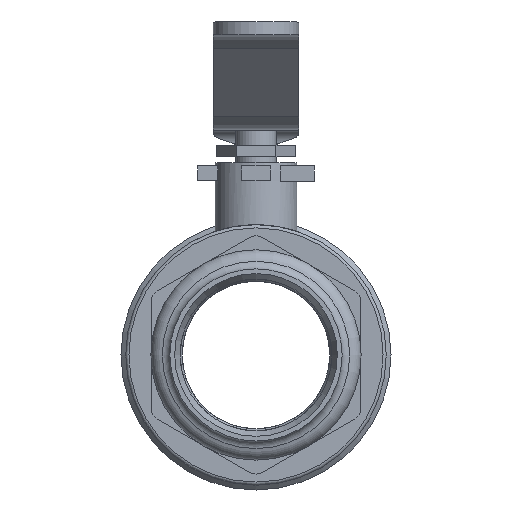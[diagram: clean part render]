
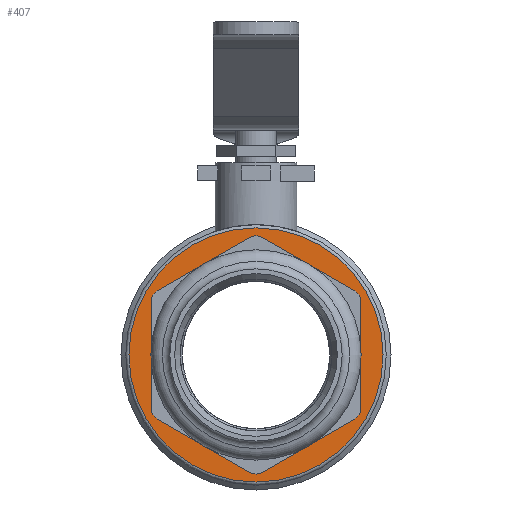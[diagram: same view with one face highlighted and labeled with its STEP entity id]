
A CAD part, left-side view. The second image highlights one B-rep face of the part: STEP entity #407.
In plain terms, the highlighted planar face has unit normal (-1, 0, 0).
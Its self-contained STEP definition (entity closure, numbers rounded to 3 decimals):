
#176=PLANE('',#3366);
#407=ADVANCED_FACE('',(#661,#662),#176,.F.);
#661=FACE_BOUND('',#905,.T.);
#662=FACE_BOUND('',#906,.T.);
#905=EDGE_LOOP('',(#1528,#1529,#1530,#1531,#1532,#1533,#1534,#1535,#1536,
#1537,#1538,#1539));
#906=EDGE_LOOP('',(#1540));
#1206=CIRCLE('',#3365,40.);
#1528=ORIENTED_EDGE('',*,*,#2528,.T.);
#1529=ORIENTED_EDGE('',*,*,#2529,.T.);
#1530=ORIENTED_EDGE('',*,*,#2530,.T.);
#1531=ORIENTED_EDGE('',*,*,#2531,.T.);
#1532=ORIENTED_EDGE('',*,*,#2532,.T.);
#1533=ORIENTED_EDGE('',*,*,#2533,.T.);
#1534=ORIENTED_EDGE('',*,*,#2534,.T.);
#1535=ORIENTED_EDGE('',*,*,#2535,.T.);
#1536=ORIENTED_EDGE('',*,*,#2536,.T.);
#1537=ORIENTED_EDGE('',*,*,#2537,.T.);
#1538=ORIENTED_EDGE('',*,*,#2538,.T.);
#1539=ORIENTED_EDGE('',*,*,#2539,.T.);
#1540=ORIENTED_EDGE('',*,*,#2540,.T.);
#2200=VERTEX_POINT('',#4941);
#2201=VERTEX_POINT('',#4942);
#2202=VERTEX_POINT('',#4944);
#2203=VERTEX_POINT('',#4946);
#2204=VERTEX_POINT('',#4948);
#2205=VERTEX_POINT('',#4950);
#2206=VERTEX_POINT('',#4952);
#2207=VERTEX_POINT('',#4954);
#2208=VERTEX_POINT('',#4956);
#2209=VERTEX_POINT('',#4958);
#2210=VERTEX_POINT('',#4960);
#2211=VERTEX_POINT('',#4962);
#2212=VERTEX_POINT('',#4965);
#2528=EDGE_CURVE('',#2200,#2201,#2879,.T.);
#2529=EDGE_CURVE('',#2201,#2202,#2880,.T.);
#2530=EDGE_CURVE('',#2202,#2203,#2881,.T.);
#2531=EDGE_CURVE('',#2203,#2204,#2882,.T.);
#2532=EDGE_CURVE('',#2204,#2205,#2883,.T.);
#2533=EDGE_CURVE('',#2205,#2206,#2884,.T.);
#2534=EDGE_CURVE('',#2206,#2207,#2885,.T.);
#2535=EDGE_CURVE('',#2207,#2208,#2886,.T.);
#2536=EDGE_CURVE('',#2208,#2209,#2887,.T.);
#2537=EDGE_CURVE('',#2209,#2210,#2888,.T.);
#2538=EDGE_CURVE('',#2210,#2211,#2889,.T.);
#2539=EDGE_CURVE('',#2211,#2200,#2890,.T.);
#2540=EDGE_CURVE('',#2212,#2212,#1206,.T.);
#2879=LINE('',#4940,#3117);
#2880=LINE('',#4943,#3118);
#2881=LINE('',#4945,#3119);
#2882=LINE('',#4947,#3120);
#2883=LINE('',#4949,#3121);
#2884=LINE('',#4951,#3122);
#2885=LINE('',#4953,#3123);
#2886=LINE('',#4955,#3124);
#2887=LINE('',#4957,#3125);
#2888=LINE('',#4959,#3126);
#2889=LINE('',#4961,#3127);
#2890=LINE('',#4963,#3128);
#3117=VECTOR('',#3872,1.);
#3118=VECTOR('',#3873,1.);
#3119=VECTOR('',#3874,1.);
#3120=VECTOR('',#3875,1.);
#3121=VECTOR('',#3876,1.);
#3122=VECTOR('',#3877,1.);
#3123=VECTOR('',#3878,1.);
#3124=VECTOR('',#3879,1.);
#3125=VECTOR('',#3880,1.);
#3126=VECTOR('',#3881,1.);
#3127=VECTOR('',#3882,1.);
#3128=VECTOR('',#3883,1.);
#3365=AXIS2_PLACEMENT_3D('',#4964,#3884,#3885);
#3366=AXIS2_PLACEMENT_3D('',#4966,#3886,#3887);
#3872=DIRECTION('',(0.,-1.,0.));
#3873=DIRECTION('',(0.,-0.866,-0.5));
#3874=DIRECTION('',(0.,-0.5,-0.866));
#3875=DIRECTION('',(0.,0.,-1.));
#3876=DIRECTION('',(0.,0.5,-0.866));
#3877=DIRECTION('',(0.,0.866,-0.5));
#3878=DIRECTION('',(0.,1.,0.));
#3879=DIRECTION('',(0.,0.866,0.5));
#3880=DIRECTION('',(0.,0.5,0.866));
#3881=DIRECTION('',(0.,0.,1.));
#3882=DIRECTION('',(0.,-0.5,0.866));
#3883=DIRECTION('',(0.,-0.866,0.5));
#3884=DIRECTION('',(-1.,0.,0.));
#3885=DIRECTION('',(0.,0.,-1.));
#3886=DIRECTION('',(1.,0.,0.));
#3887=DIRECTION('',(0.,0.,-1.));
#4940=CARTESIAN_POINT('',(-30.,2.598,34.873));
#4941=CARTESIAN_POINT('',(-30.,2.598,34.873));
#4942=CARTESIAN_POINT('',(-30.,-2.598,34.873));
#4943=CARTESIAN_POINT('',(-30.,0.,36.373));
#4944=CARTESIAN_POINT('',(-30.,-28.902,19.687));
#4945=CARTESIAN_POINT('',(-30.,-28.902,19.687));
#4946=CARTESIAN_POINT('',(-30.,-31.5,15.187));
#4947=CARTESIAN_POINT('',(-30.,-31.5,18.187));
#4948=CARTESIAN_POINT('',(-30.,-31.5,-15.187));
#4949=CARTESIAN_POINT('',(-30.,-31.5,-15.187));
#4950=CARTESIAN_POINT('',(-30.,-28.902,-19.687));
#4951=CARTESIAN_POINT('',(-30.,-31.5,-18.187));
#4952=CARTESIAN_POINT('',(-30.,-2.598,-34.873));
#4953=CARTESIAN_POINT('',(-30.,-2.598,-34.873));
#4954=CARTESIAN_POINT('',(-30.,2.598,-34.873));
#4955=CARTESIAN_POINT('',(-30.,0.,-36.373));
#4956=CARTESIAN_POINT('',(-30.,28.902,-19.687));
#4957=CARTESIAN_POINT('',(-30.,28.902,-19.687));
#4958=CARTESIAN_POINT('',(-30.,31.5,-15.187));
#4959=CARTESIAN_POINT('',(-30.,31.5,-18.187));
#4960=CARTESIAN_POINT('',(-30.,31.5,15.187));
#4961=CARTESIAN_POINT('',(-30.,31.5,15.187));
#4962=CARTESIAN_POINT('',(-30.,28.902,19.687));
#4963=CARTESIAN_POINT('',(-30.,31.5,18.187));
#4964=CARTESIAN_POINT('',(-30.,0.,0.));
#4965=CARTESIAN_POINT('',(-30.,0.,-40.));
#4966=CARTESIAN_POINT('',(-30.,0.,0.));
